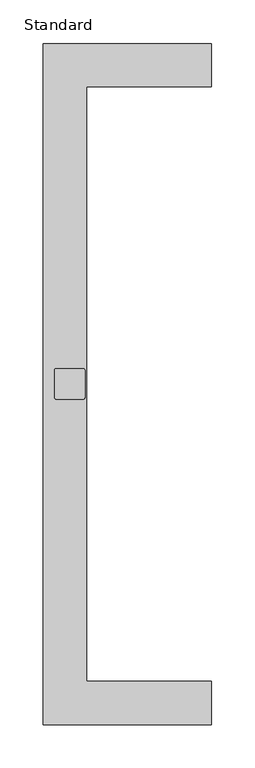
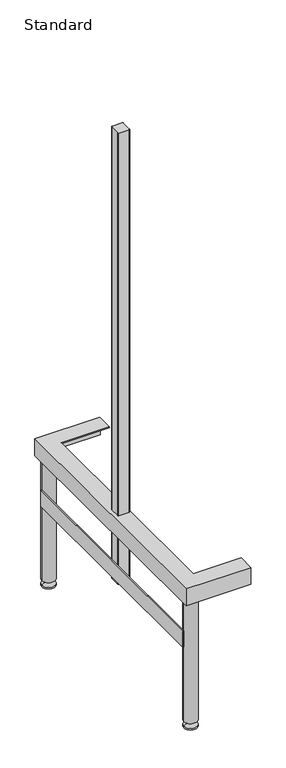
"""IFC4 building model written with IfcOpenShell, lengths in millimetres: furniture geometry, X_Bench-Foot-Duracube-Assembly : Standard."""

from ifc_helpers import new_model, si_unit, point, frame, frame_2d, origin, place, context, project, spatial, polyline, circle_curve, trimmed, segment, composite_curve, outline, extrude, source, transform, mapped, element, save
from ifc_brep_helpers import plane_surface, cylinder_surface, revolved_surface, advanced_brep


def standard_561e798c(model_context):
    return source(origin(), model_context, "Body", "SolidModel", [
        advanced_brep(
        [(208.2003264, 785.0, 404.0), (208.2003264, 785.0, 457.0), (208.2003264, 735.0, 457.0), (208.2003264, 735.0, 454.0), (208.2003264, 782.0, 454.0), (208.2003264, 782.0, 404.0), (17.2003264, 782.0, 404.0), (17.2003264, 3.0, 404.0), (208.2003264, 3.0, 404.0), (208.2003264, 0.0, 404.0), (14.2003264, 0.0, 404.0), (14.2003264, 785.0, 404.0), (17.2003264, 782.0, 454.0), (64.2003264, 735.0, 454.0), (64.2003264, 50.0, 454.0), (208.2003264, 50.0, 454.0), (208.2003264, 3.0, 454.0), (17.2003264, 3.0, 454.0), (60.2003264, 375.0, 454.0), (62.2003264, 377.0, 454.0), (62.2003264, 408.0, 454.0), (60.2003264, 410.0, 454.0), (29.2003264, 410.0, 454.0), (27.2003264, 408.0, 454.0), (27.2003264, 377.0, 454.0), (29.2003264, 375.0, 454.0), (64.2003264, 735.0, 457.0), (14.2003264, 785.0, 457.0), (14.2003264, 0.0, 457.0), (208.2003264, 0.0, 457.0), (208.2003264, 50.0, 457.0), (64.2003264, 50.0, 457.0), (29.2003264, 375.0, 457.0), (27.2003264, 377.0, 457.0), (27.2003264, 408.0, 457.0), (29.2003264, 410.0, 457.0), (60.2003264, 410.0, 457.0), (62.2003264, 408.0, 457.0), (62.2003264, 377.0, 457.0), (60.2003264, 375.0, 457.0), (29.2003264, 375.0, 1670.0), (60.2003264, 375.0, 1670.0), (60.2003264, 375.0, 239.0), (29.2003264, 375.0, 239.0), (27.2003264, 377.0, 239.0), (27.2003264, 377.0, 1670.0), (27.2003264, 408.0, 239.0), (27.2003264, 408.0, 1670.0), (29.2003264, 410.0, 239.0), (29.2003264, 410.0, 1670.0), (60.2003264, 410.0, 239.0), (60.2003264, 410.0, 1670.0), (62.2003264, 408.0, 239.0), (62.2003264, 408.0, 1670.0), (62.2003264, 377.0, 239.0), (62.2003264, 377.0, 1670.0)],
        [
            (0, 1),
            (1, 2),
            (2, 3),
            (3, 4),
            (4, 5),
            (5, 0),
            (5, 6),
            (6, 7),
            (7, 8),
            (8, 9),
            (9, 10),
            (10, 11),
            (11, 0),
            (4, 12),
            (12, 6),
            (3, 13),
            (13, 14),
            (14, 15),
            (15, 16),
            (16, 17),
            (17, 12),
            (18, 19, circle_curve(frame((60.2003264, 377.0, 454.0), z_axis=(0.0, 0.0, 1.0), x_axis=(1.0, 0.0, 0.0)), 2.0)),
            (19, 20),
            (20, 21, circle_curve(frame((60.2003264, 408.0, 454.0), z_axis=(0.0, 0.0, 1.0), x_axis=(1.0, 0.0, 0.0)), 2.0)),
            (21, 22),
            (22, 23, circle_curve(frame((29.2003264, 408.0, 454.0), z_axis=(0.0, 0.0, 1.0), x_axis=(1.0, 0.0, 0.0)), 2.0)),
            (23, 24),
            (24, 25, circle_curve(frame((29.2003264, 377.0, 454.0), z_axis=(0.0, 0.0, 1.0), x_axis=(1.0, 0.0, 0.0)), 2.0)),
            (25, 18),
            (2, 26),
            (26, 13),
            (1, 27),
            (27, 28),
            (28, 29),
            (29, 30),
            (30, 31),
            (31, 26),
            (32, 33, circle_curve(frame((29.2003264, 377.0, 457.0), z_axis=(0.0, 0.0, -1.0), x_axis=(1.0, 0.0, 0.0)), 2.0)),
            (33, 34),
            (34, 35, circle_curve(frame((29.2003264, 408.0, 457.0), z_axis=(0.0, 0.0, -1.0), x_axis=(1.0, 0.0, 0.0)), 2.0)),
            (35, 36),
            (36, 37, circle_curve(frame((60.2003264, 408.0, 457.0), z_axis=(0.0, 0.0, -1.0), x_axis=(1.0, 0.0, 0.0)), 2.0)),
            (37, 38),
            (38, 39, circle_curve(frame((60.2003264, 377.0, 457.0), z_axis=(0.0, 0.0, -1.0), x_axis=(1.0, 0.0, 0.0)), 2.0)),
            (39, 32),
            (11, 27),
            (10, 28),
            (9, 29),
            (8, 16),
            (15, 30),
            (7, 17),
            (14, 31),
            (40, 32),
            (39, 41),
            (41, 40),
            (42, 18),
            (25, 43),
            (43, 42),
            (24, 44),
            (44, 43, circle_curve(frame((29.2003264, 377.0, 239.0), z_axis=(0.0, 0.0, 1.0), x_axis=(1.0, 0.0, 0.0)), 2.0)),
            (45, 33),
            (40, 45, circle_curve(frame((29.2003264, 377.0, 1670.0), z_axis=(0.0, 0.0, -1.0), x_axis=(1.0, 0.0, 0.0)), 2.0)),
            (23, 46),
            (46, 44),
            (47, 34),
            (45, 47),
            (22, 48),
            (48, 46, circle_curve(frame((29.2003264, 408.0, 239.0), z_axis=(0.0, 0.0, 1.0), x_axis=(1.0, 0.0, 0.0)), 2.0)),
            (49, 35),
            (47, 49, circle_curve(frame((29.2003264, 408.0, 1670.0), z_axis=(0.0, 0.0, -1.0), x_axis=(1.0, 0.0, 0.0)), 2.0)),
            (21, 50),
            (50, 48),
            (51, 36),
            (49, 51),
            (20, 52),
            (52, 50, circle_curve(frame((60.2003264, 408.0, 239.0), z_axis=(0.0, 0.0, 1.0), x_axis=(1.0, 0.0, 0.0)), 2.0)),
            (53, 37),
            (51, 53, circle_curve(frame((60.2003264, 408.0, 1670.0), z_axis=(0.0, 0.0, -1.0), x_axis=(1.0, 0.0, 0.0)), 2.0)),
            (19, 54),
            (54, 52),
            (55, 38),
            (53, 55),
            (55, 41, circle_curve(frame((60.2003264, 377.0, 1670.0), z_axis=(0.0, 0.0, -1.0), x_axis=(1.0, 0.0, 0.0)), 2.0)),
            (42, 54, circle_curve(frame((60.2003264, 377.0, 239.0), z_axis=(0.0, 0.0, 1.0), x_axis=(1.0, 0.0, 0.0)), 2.0)),
        ],
        [
            plane_surface(frame((208.2003264, 785.0, 0.0), z_axis=(1.0, 0.0, 0.0), x_axis=(0.0, 0.0, 1.0))),
            plane_surface(frame((208.2003264, 785.0, 404.0), z_axis=(0.0, 0.0, -1.0), x_axis=(-1.0, 0.0, 0.0))),
            plane_surface(frame((208.2003264, 782.0, 404.0), z_axis=(0.0, -1.0, 0.0), x_axis=(-1.0, 0.0, 0.0))),
            plane_surface(frame((208.2003264, 782.0, 454.0), z_axis=(0.0, 0.0, -1.0), x_axis=(-1.0, 0.0, 0.0))),
            plane_surface(frame((208.2003264, 735.0, 454.0), z_axis=(0.0, -1.0, 0.0), x_axis=(-1.0, 0.0, 0.0))),
            plane_surface(frame((208.2003264, 735.0, 457.0), z_axis=(0.0, 0.0, 1.0), x_axis=(-1.0, 0.0, 0.0))),
            plane_surface(frame((208.2003264, 785.0, 457.0), z_axis=(0.0, 1.0, 0.0), x_axis=(-1.0, 0.0, 0.0))),
            plane_surface(frame((14.2003264, 785.0, 457.0), z_axis=(-1.0, 0.0, 0.0), x_axis=(0.0, -1.0, 0.0))),
            plane_surface(frame((14.2003264, 0.0, 457.0), z_axis=(0.0, -1.0, 0.0), x_axis=(1.0, 0.0, 0.0))),
            plane_surface(frame((208.2003264, 0.0, 0.0), z_axis=(1.0, 0.0, 0.0), x_axis=(0.0, 0.0, 1.0))),
            plane_surface(frame((17.2003264, 3.0, 404.0), z_axis=(0.0, 1.0, 0.0), x_axis=(1.0, 0.0, 0.0))),
            plane_surface(frame((17.2003264, 782.0, 404.0), z_axis=(1.0, 0.0, 0.0), x_axis=(0.0, -1.0, 0.0))),
            plane_surface(frame((64.2003264, 50.0, 454.0), z_axis=(0.0, 1.0, 0.0), x_axis=(1.0, 0.0, 0.0))),
            plane_surface(frame((64.2003264, 735.0, 454.0), z_axis=(1.0, 0.0, 0.0), x_axis=(0.0, -1.0, 0.0))),
            plane_surface(frame((60.2003264, 375.0, 1670.0), z_axis=(0.0, -1.0, 0.0), x_axis=(0.0, 0.0, -1.0))),
            cylinder_surface(frame((29.2003264, 377.0, 239.0), z_axis=(0.0, 0.0, 1.0), x_axis=(1.0, 0.0, 0.0)), 2.0),
            plane_surface(frame((27.2003264, 377.0, 1670.0), z_axis=(-1.0, 0.0, 0.0), x_axis=(0.0, 0.0, -1.0))),
            cylinder_surface(frame((29.2003264, 408.0, 239.0), z_axis=(0.0, 0.0, 1.0), x_axis=(1.0, 0.0, 0.0)), 2.0),
            plane_surface(frame((29.2003264, 410.0, 1670.0), z_axis=(0.0, 1.0, 0.0), x_axis=(0.0, 0.0, -1.0))),
            cylinder_surface(frame((60.2003264, 408.0, 239.0), z_axis=(0.0, 0.0, 1.0), x_axis=(1.0, 0.0, 0.0)), 2.0),
            plane_surface(frame((62.2003264, 408.0, 1670.0), z_axis=(1.0, 0.0, 0.0), x_axis=(0.0, 0.0, -1.0))),
            cylinder_surface(frame((60.2003264, 377.0, 239.0), z_axis=(0.0, 0.0, 1.0), x_axis=(1.0, 0.0, 0.0)), 2.0),
            plane_surface(frame((27.2003264, 375.0, 239.0), z_axis=(0.0, 0.0, -1.0), x_axis=(1.0, 0.0, 0.0))),
            plane_surface(frame((27.2003264, 375.0, 1670.0), z_axis=(0.0, 0.0, 1.0), x_axis=(-1.0, 0.0, 0.0))),
        ],
        [
            (0, [[1, 2, 3, 4, 5, 6]]),
            (1, [[7, 8, 9, 10, 11, 12, 13, -6]]),
            (2, [[14, 15, -7, -5]]),
            (3, [[16, 17, 18, 19, 20, 21, -14, -4], [22, 23, 24, 25, 26, 27, 28, 29]]),
            (4, [[30, 31, -16, -3]]),
            (5, [[32, 33, 34, 35, 36, 37, -30, -2], [38, 39, 40, 41, 42, 43, 44, 45]]),
            (6, [[-13, 46, -32, -1]]),
            (7, [[47, -33, -46, -12]]),
            (8, [[48, -34, -47, -11]]),
            (9, [[49, -19, 50, -35, -48, -10]]),
            (10, [[51, -20, -49, -9]]),
            (11, [[-15, -21, -51, -8]]),
            (12, [[52, -36, -50, -18]]),
            (13, [[-31, -37, -52, -17]]),
            (14, [[53, -45, 54, 55]]),
            (14, [[56, -29, 57, 58]]),
            (15, [[-57, -28, 59, 60]]),
            (15, [[61, -38, -53, 62]]),
            (16, [[-59, -27, 63, 64]]),
            (16, [[65, -39, -61, 66]]),
            (17, [[-63, -26, 67, 68]]),
            (17, [[69, -40, -65, 70]]),
            (18, [[-67, -25, 71, 72]]),
            (18, [[73, -41, -69, 74]]),
            (19, [[-71, -24, 75, 76]]),
            (19, [[77, -42, -73, 78]]),
            (20, [[-75, -23, 79, 80]]),
            (20, [[81, -43, -77, 82]]),
            (21, [[-54, -44, -81, 83]]),
            (21, [[-79, -22, -56, 84]]),
            (22, [[-58, -60, -64, -68, -72, -76, -80, -84]]),
            (23, [[-83, -82, -78, -74, -70, -66, -62, -55]]),
        ],
    ),
        advanced_brep(
        [(44.9503264, 23.75, 20.0), (40.9503264, 23.75, 20.0), (36.9503264, 23.75, 20.0), (44.9503264, 23.75, 15.0), (36.9503264, 23.75, 15.0), (60.9503264, 23.75, 5.0), (20.9503264, 23.75, 5.0), (60.9503264, 23.75, 0.0), (20.9503264, 23.75, 0.0), (40.9503264, 23.75, 0.0)],
        [
            (0, 1),
            (1, 2),
            (2, 0, circle_curve(frame((40.9503264, 23.75, 20.0), z_axis=(0.0, 0.0, 1.0), x_axis=(-1.0, 0.0, 0.0)), 4.0)),
            (0, 2, circle_curve(frame((40.9503264, 23.75, 20.0), z_axis=(0.0, 0.0, 1.0), x_axis=(-1.0, 0.0, 0.0)), 4.0)),
            (3, 0),
            (2, 4),
            (4, 3, circle_curve(frame((40.9503264, 23.75, 15.0), z_axis=(0.0, 0.0, 1.0), x_axis=(-1.0, 0.0, 0.0)), 4.0)),
            (3, 4, circle_curve(frame((40.9503264, 23.75, 15.0), z_axis=(0.0, 0.0, 1.0), x_axis=(-1.0, 0.0, 0.0)), 4.0)),
            (5, 3),
            (4, 6),
            (6, 5, circle_curve(frame((40.9503264, 23.75, 5.0), z_axis=(0.0, 0.0, 1.0), x_axis=(-1.0, 0.0, 0.0)), 20.0)),
            (5, 6, circle_curve(frame((40.9503264, 23.75, 5.0), z_axis=(0.0, 0.0, 1.0), x_axis=(-1.0, 0.0, 0.0)), 20.0)),
            (7, 5),
            (6, 8),
            (8, 7, circle_curve(frame((40.9503264, 23.75, 0.0), z_axis=(0.0, 0.0, 1.0), x_axis=(-1.0, 0.0, 0.0)), 20.0)),
            (7, 8, circle_curve(frame((40.9503264, 23.75, 0.0), z_axis=(0.0, 0.0, 1.0), x_axis=(-1.0, 0.0, 0.0)), 20.0)),
            (9, 7),
            (8, 9),
        ],
        [
            plane_surface(frame((40.9503264, 23.75, 20.0), z_axis=(0.0, 0.0, 1.0), x_axis=(-1.0, 0.0, 0.0))),
            cylinder_surface(frame((40.9503264, 23.75, 0.0), z_axis=(0.0, 0.0, -1.0), x_axis=(-1.0, 0.0, 0.0)), 4.0),
            revolved_surface(polyline([(36.9503264, 23.75, 15.0), (20.9503264, 23.75, 5.0)]), (40.9503264, 23.75, 0.0), (0.0, 0.0, -1.0)),
            cylinder_surface(frame((40.9503264, 23.75, 0.0), z_axis=(0.0, 0.0, -1.0), x_axis=(-1.0, 0.0, 0.0)), 20.0),
            plane_surface(frame((40.9503264, 23.75, 0.0), z_axis=(0.0, 0.0, -1.0), x_axis=(-1.0, 0.0, 0.0))),
        ],
        [
            (0, [[1, 2, 3]]),
            (0, [[-2, -1, 4]]),
            (1, [[5, -3, 6, 7]]),
            (1, [[-6, -4, -5, 8]]),
            (2, [[9, -7, 10, 11]]),
            (2, [[-10, -8, -9, 12]]),
            (3, [[13, -11, 14, 15]]),
            (3, [[-14, -12, -13, 16]]),
            (4, [[17, -15, 18]]),
            (4, [[-18, -16, -17]]),
        ],
    ),
        advanced_brep(
        [(44.9503264, 761.25, 20.0), (40.9503264, 761.25, 20.0), (36.9503264, 761.25, 20.0), (44.9503264, 761.25, 15.0), (36.9503264, 761.25, 15.0), (60.9503264, 761.25, 5.0), (20.9503264, 761.25, 5.0), (60.9503264, 761.25, 0.0), (20.9503264, 761.25, 0.0), (40.9503264, 761.25, 0.0)],
        [
            (0, 1),
            (1, 2),
            (2, 0, circle_curve(frame((40.9503264, 761.25, 20.0), z_axis=(0.0, 0.0, 1.0), x_axis=(-1.0, 0.0, 0.0)), 4.0)),
            (0, 2, circle_curve(frame((40.9503264, 761.25, 20.0), z_axis=(0.0, 0.0, 1.0), x_axis=(-1.0, 0.0, 0.0)), 4.0)),
            (3, 0),
            (2, 4),
            (4, 3, circle_curve(frame((40.9503264, 761.25, 15.0), z_axis=(0.0, 0.0, 1.0), x_axis=(-1.0, 0.0, 0.0)), 4.0)),
            (3, 4, circle_curve(frame((40.9503264, 761.25, 15.0), z_axis=(0.0, 0.0, 1.0), x_axis=(-1.0, 0.0, 0.0)), 4.0)),
            (5, 3),
            (4, 6),
            (6, 5, circle_curve(frame((40.9503264, 761.25, 5.0), z_axis=(0.0, 0.0, 1.0), x_axis=(-1.0, 0.0, 0.0)), 20.0)),
            (5, 6, circle_curve(frame((40.9503264, 761.25, 5.0), z_axis=(0.0, 0.0, 1.0), x_axis=(-1.0, 0.0, 0.0)), 20.0)),
            (7, 5),
            (6, 8),
            (8, 7, circle_curve(frame((40.9503264, 761.25, 0.0), z_axis=(0.0, 0.0, 1.0), x_axis=(-1.0, 0.0, 0.0)), 20.0)),
            (7, 8, circle_curve(frame((40.9503264, 761.25, 0.0), z_axis=(0.0, 0.0, 1.0), x_axis=(-1.0, 0.0, 0.0)), 20.0)),
            (9, 7),
            (8, 9),
        ],
        [
            plane_surface(frame((40.9503264, 761.25, 20.0), z_axis=(0.0, 0.0, 1.0), x_axis=(-1.0, 0.0, 0.0))),
            cylinder_surface(frame((40.9503264, 761.25, 0.0), z_axis=(0.0, 0.0, -1.0), x_axis=(-1.0, 0.0, 0.0)), 4.0),
            revolved_surface(polyline([(36.9503264, 761.25, 15.0), (20.9503264, 761.25, 5.0)]), (40.9503264, 761.25, 0.0), (0.0, 0.0, -1.0)),
            cylinder_surface(frame((40.9503264, 761.25, 0.0), z_axis=(0.0, 0.0, -1.0), x_axis=(-1.0, 0.0, 0.0)), 20.0),
            plane_surface(frame((40.9503264, 761.25, 0.0), z_axis=(0.0, 0.0, -1.0), x_axis=(-1.0, 0.0, 0.0))),
        ],
        [
            (0, [[1, 2, 3]]),
            (0, [[-2, -1, 4]]),
            (1, [[5, -3, 6, 7]]),
            (1, [[-6, -4, -5, 8]]),
            (2, [[9, -7, 10, 11]]),
            (2, [[-10, -8, -9, 12]]),
            (3, [[13, -11, 14, 15]]),
            (3, [[-14, -12, -13, 16]]),
            (4, [[17, -15, 18]]),
            (4, [[-18, -16, -17]]),
        ],
    ),
        extrude(outline(polyline([(20.9503264, 23.75), (17.9503264, 23.75), (17.9503264, 761.25), (20.9503264, 761.25), (20.9503264, 23.75)])), frame((0.0, 0.0, 257.0), z_axis=(0.0, 0.0, 1.0), x_axis=(1.0, 0.0, 0.0)), (0.0, 0.0, 1.0), 50.0),
        extrude(outline(composite_curve([segment(trimmed(circle_curve(frame_2d((40.9503264, 23.75)), 20.0), [point((20.9503264, 23.75))], [point((60.9503264, 23.75))], False, "CARTESIAN"), True, "CONTINUOUS"), segment(trimmed(circle_curve(frame_2d((40.9503264, 23.75)), 20.0), [point((60.9503264, 23.75))], [point((20.9503264, 23.75))], False, "CARTESIAN"), True, "CONTINUOUS")], self_intersect=False)), frame((0.0, 0.0, 20.0), z_axis=(0.0, 0.0, 1.0), x_axis=(1.0, 0.0, 0.0)), (0.0, 0.0, 1.0), 434.0),
        extrude(outline(composite_curve([segment(trimmed(circle_curve(frame_2d((40.9503264, 761.25)), 20.0), [point((20.9503264, 761.25))], [point((60.9503264, 761.25))], False, "CARTESIAN"), True, "CONTINUOUS"), segment(trimmed(circle_curve(frame_2d((40.9503264, 761.25)), 20.0), [point((60.9503264, 761.25))], [point((20.9503264, 761.25))], False, "CARTESIAN"), True, "CONTINUOUS")], self_intersect=False)), frame((0.0, 0.0, 20.0), z_axis=(0.0, 0.0, 1.0), x_axis=(1.0, 0.0, 0.0)), (0.0, 0.0, 1.0), 434.0),
    ])


if __name__ == "__main__":
    model = new_model("IFC4")
    model_context = context("Model", 3, world=origin())
    ifc_project = project(units=[si_unit("LENGTHUNIT", "METRE", prefix="MILLI")], contexts=[model_context])
    site = spatial("IfcSite", under=ifc_project)
    building = spatial("IfcBuilding", under=site)
    placement = place(None, origin())
    standard_shape = standard_561e798c(model_context)
    element("IfcFurniture", 1, ObjectType="X_Bench-Foot-Duracube-Assembly : Standard", at=placement, inside=building, context=model_context, shape_type="MappedRepresentation", body=[
        mapped(standard_shape, transform((0.0, 0.0, 0.0), x_axis=(1.0, 0.0, 0.0), y_axis=(0.0, 1.0, 0.0), z_axis=(0.0, 0.0, 1.0))),
    ])
    save(model, "model.ifc")
